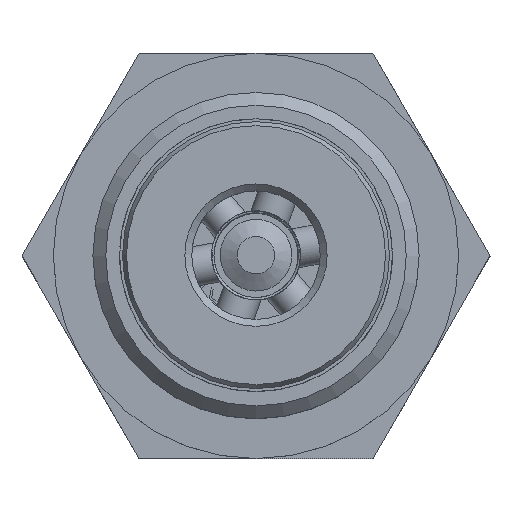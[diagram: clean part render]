
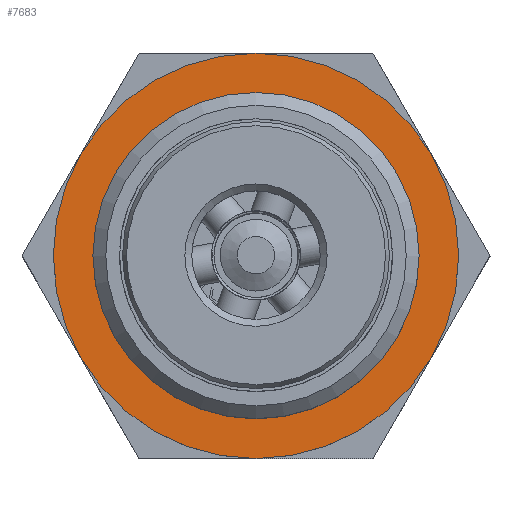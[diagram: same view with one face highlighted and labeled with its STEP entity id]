
A CAD part, top view. The second image highlights one B-rep face of the part: STEP entity #7683.
In plain terms, the highlighted planar face has unit normal (0, 0, 1).
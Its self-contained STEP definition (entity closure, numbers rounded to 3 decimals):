
#384 = DIRECTION ( 'NONE',  ( 0., 0., 1. ) ) ;
#690 = VERTEX_POINT ( 'NONE', #18855 ) ;
#1591 = AXIS2_PLACEMENT_3D ( 'NONE', #11558, #384, #13389 ) ;
#2053 = PLANE ( 'NONE',  #1591 ) ;
#4623 = CARTESIAN_POINT ( 'NONE',  ( 0., 0., 14. ) ) ;
#6233 = VERTEX_POINT ( 'NONE', #13195 ) ;
#6507 = DIRECTION ( 'NONE',  ( 1., 0., 0. ) ) ;
#7683 = ADVANCED_FACE ( 'NONE', ( #17500, #22507 ), #2053, .T. ) ;
#8521 = CIRCLE ( 'NONE', #19142, 14.5 ) ;
#9584 = DIRECTION ( 'NONE',  ( 0., 0., 1. ) ) ;
#9799 = ORIENTED_EDGE ( 'NONE', *, *, #12084, .F. ) ;
#10881 = AXIS2_PLACEMENT_3D ( 'NONE', #4623, #17625, #6507 ) ;
#11165 = EDGE_LOOP ( 'NONE', ( #9799 ) ) ;
#11558 = CARTESIAN_POINT ( 'NONE',  ( 0., 0., 14. ) ) ;
#12084 = EDGE_CURVE ( 'NONE', #6233, #6233, #8521, .T. ) ;
#12137 = CIRCLE ( 'NONE', #10881, 20.5 ) ;
#13195 = CARTESIAN_POINT ( 'NONE',  ( 14.5, 0., 14. ) ) ;
#13389 = DIRECTION ( 'NONE',  ( 1., 0., 0. ) ) ;
#13814 = EDGE_CURVE ( 'NONE', #690, #690, #12137, .T. ) ;
#17500 = FACE_OUTER_BOUND ( 'NONE', #20236, .T. ) ;
#17625 = DIRECTION ( 'NONE',  ( 0., 0., 1. ) ) ;
#18855 = CARTESIAN_POINT ( 'NONE',  ( 20.5, 0., 14. ) ) ;
#19142 = AXIS2_PLACEMENT_3D ( 'NONE', #20783, #9584, #22636 ) ;
#20236 = EDGE_LOOP ( 'NONE', ( #20629 ) ) ;
#20629 = ORIENTED_EDGE ( 'NONE', *, *, #13814, .T. ) ;
#20783 = CARTESIAN_POINT ( 'NONE',  ( 0., 0., 14. ) ) ;
#22507 = FACE_BOUND ( 'NONE', #11165, .T. ) ;
#22636 = DIRECTION ( 'NONE',  ( 1., 0., 0. ) ) ;
